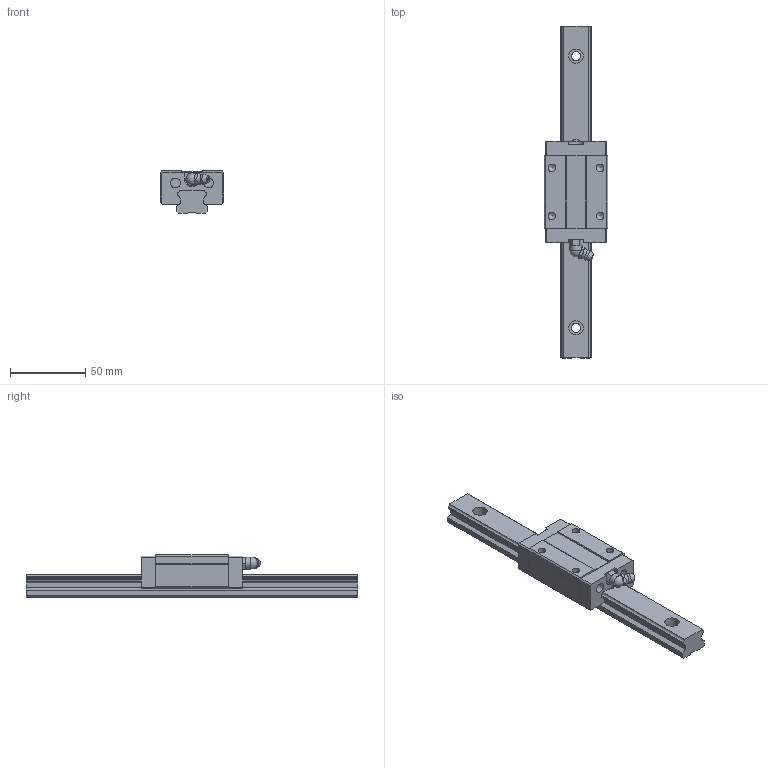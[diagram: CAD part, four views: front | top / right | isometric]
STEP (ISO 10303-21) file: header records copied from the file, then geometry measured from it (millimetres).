
FILE_DESCRIPTION(/* description */ (''),/* implementation_level */ '2;1');
FILE_NAME(/* name */ 'MSB20S',/* time_stamp */ '2004-05-24T10:12:35+08:00',/* author */ (''),/* organization */ (''),/* preprocessor_version */ 'ST-DEVELOPER v8',/* originating_system */ '',/* authorisation */ '');
FILE_SCHEMA (('CONFIG_CONTROL_DESIGN'));
Length unit declared in the file: millimetre
Products named in the file (1): zirc812C001l
Bounding box: 42 x 220 x 28 mm (x, y, z)
Volume: 102220.4 mm3; surface area: 31281.5 mm2
Topology: 3 solids, 3 shells, 161 faces, 435 edges, 286 vertices
Faces by surface type: plane 115, cylinder 31, torus 7, cone 5, sphere 2, bspline 1
Full cylindrical faces by diameter (mm): 5 x4, 6 x4, 6.5 x6, 8 x1, 9.5 x4
Entity records: 4961 total; most frequent: CARTESIAN_POINT 960, DIRECTION 788, ORIENTED_EDGE 786, EDGE_CURVE 393, LINE 284, VECTOR 284, VERTEX_POINT 276, AXIS2_PLACEMENT_3D 252
